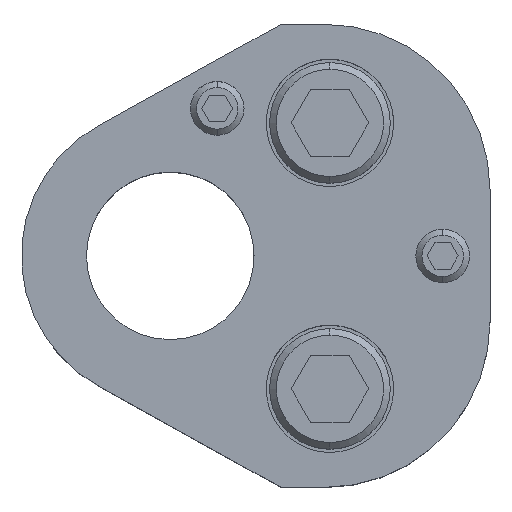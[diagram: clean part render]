
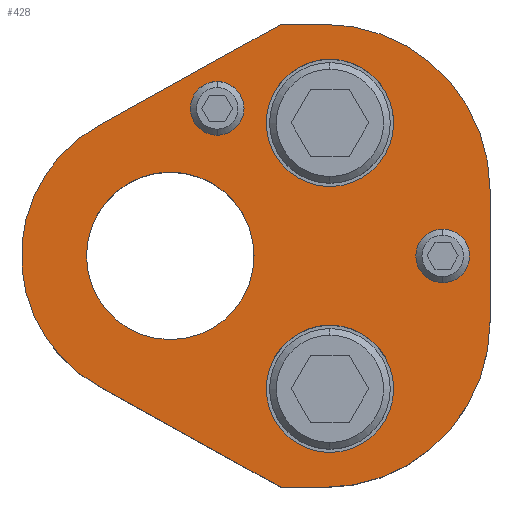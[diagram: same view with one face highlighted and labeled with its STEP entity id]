
A CAD part, top view. The second image highlights one B-rep face of the part: STEP entity #428.
In plain terms, the highlighted planar face has unit normal (0, 0, 1).
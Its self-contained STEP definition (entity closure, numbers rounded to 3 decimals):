
#198=FACE_BOUND('',#745,.T.);
#199=FACE_BOUND('',#746,.T.);
#200=FACE_BOUND('',#747,.T.);
#201=FACE_BOUND('',#748,.T.);
#202=FACE_BOUND('',#749,.T.);
#203=FACE_BOUND('',#750,.T.);
#276=CIRCLE('',#2330,24.7);
#278=CIRCLE('',#2334,24.7);
#281=CIRCLE('',#2340,22.2);
#282=CIRCLE('',#2342,4.);
#284=CIRCLE('',#2345,4.);
#286=CIRCLE('',#2348,4.);
#288=CIRCLE('',#2351,4.);
#298=CIRCLE('',#2366,9.5);
#299=CIRCLE('',#2367,9.5);
#300=CIRCLE('',#2368,9.5);
#301=CIRCLE('',#2369,9.5);
#302=CIRCLE('',#2370,12.5);
#303=CIRCLE('',#2371,12.5);
#428=ADVANCED_FACE('',(#198,#199,#200,#201,#202,#203),#522,.T.);
#522=PLANE('',#2372);
#745=EDGE_LOOP('',(#1129,#1130,#1131,#1132,#1133,#1134,#1135,#1136));
#746=EDGE_LOOP('',(#1137,#1138));
#747=EDGE_LOOP('',(#1139,#1140));
#748=EDGE_LOOP('',(#1141,#1142));
#749=EDGE_LOOP('',(#1143,#1144));
#750=EDGE_LOOP('',(#1145,#1146));
#1129=ORIENTED_EDGE('',*,*,#1724,.T.);
#1130=ORIENTED_EDGE('',*,*,#1728,.T.);
#1131=ORIENTED_EDGE('',*,*,#1731,.T.);
#1132=ORIENTED_EDGE('',*,*,#1734,.T.);
#1133=ORIENTED_EDGE('',*,*,#1737,.T.);
#1134=ORIENTED_EDGE('',*,*,#1740,.T.);
#1135=ORIENTED_EDGE('',*,*,#1743,.T.);
#1136=ORIENTED_EDGE('',*,*,#1746,.T.);
#1137=ORIENTED_EDGE('',*,*,#1771,.F.);
#1138=ORIENTED_EDGE('',*,*,#1772,.F.);
#1139=ORIENTED_EDGE('',*,*,#1773,.F.);
#1140=ORIENTED_EDGE('',*,*,#1774,.F.);
#1141=ORIENTED_EDGE('',*,*,#1757,.F.);
#1142=ORIENTED_EDGE('',*,*,#1753,.F.);
#1143=ORIENTED_EDGE('',*,*,#1751,.F.);
#1144=ORIENTED_EDGE('',*,*,#1747,.F.);
#1145=ORIENTED_EDGE('',*,*,#1775,.T.);
#1146=ORIENTED_EDGE('',*,*,#1776,.T.);
#1492=VERTEX_POINT('',#3476);
#1493=VERTEX_POINT('',#3478);
#1496=VERTEX_POINT('',#3485);
#1498=VERTEX_POINT('',#3491);
#1500=VERTEX_POINT('',#3497);
#1502=VERTEX_POINT('',#3503);
#1504=VERTEX_POINT('',#3509);
#1506=VERTEX_POINT('',#3515);
#1507=VERTEX_POINT('',#3523);
#1508=VERTEX_POINT('',#3524);
#1511=VERTEX_POINT('',#3535);
#1512=VERTEX_POINT('',#3536);
#1523=VERTEX_POINT('',#3571);
#1524=VERTEX_POINT('',#3572);
#1525=VERTEX_POINT('',#3575);
#1526=VERTEX_POINT('',#3576);
#1527=VERTEX_POINT('',#3579);
#1528=VERTEX_POINT('',#3580);
#1724=EDGE_CURVE('',#1493,#1492,#1968,.T.);
#1728=EDGE_CURVE('',#1492,#1496,#1972,.T.);
#1731=EDGE_CURVE('',#1496,#1498,#276,.T.);
#1734=EDGE_CURVE('',#1498,#1500,#1976,.T.);
#1737=EDGE_CURVE('',#1500,#1502,#278,.T.);
#1740=EDGE_CURVE('',#1502,#1504,#1980,.T.);
#1743=EDGE_CURVE('',#1504,#1506,#1983,.T.);
#1746=EDGE_CURVE('',#1506,#1493,#281,.T.);
#1747=EDGE_CURVE('',#1507,#1508,#282,.T.);
#1751=EDGE_CURVE('',#1508,#1507,#284,.T.);
#1753=EDGE_CURVE('',#1511,#1512,#286,.T.);
#1757=EDGE_CURVE('',#1512,#1511,#288,.T.);
#1771=EDGE_CURVE('',#1523,#1524,#298,.T.);
#1772=EDGE_CURVE('',#1524,#1523,#299,.T.);
#1773=EDGE_CURVE('',#1525,#1526,#300,.T.);
#1774=EDGE_CURVE('',#1526,#1525,#301,.T.);
#1775=EDGE_CURVE('',#1527,#1528,#302,.T.);
#1776=EDGE_CURVE('',#1528,#1527,#303,.T.);
#1968=LINE('',#3477,#2132);
#1972=LINE('',#3486,#2136);
#1976=LINE('',#3498,#2140);
#1980=LINE('',#3510,#2144);
#1983=LINE('',#3516,#2147);
#2132=VECTOR('',#2758,1.);
#2136=VECTOR('',#2764,1.);
#2140=VECTOR('',#2776,1.);
#2144=VECTOR('',#2788,1.);
#2147=VECTOR('',#2793,1.);
#2330=AXIS2_PLACEMENT_3D('',#3492,#2769,#2770);
#2334=AXIS2_PLACEMENT_3D('',#3504,#2781,#2782);
#2340=AXIS2_PLACEMENT_3D('',#3520,#2799,#2800);
#2342=AXIS2_PLACEMENT_3D('',#3522,#2803,#2804);
#2345=AXIS2_PLACEMENT_3D('',#3531,#2811,#2812);
#2348=AXIS2_PLACEMENT_3D('',#3534,#2817,#2818);
#2351=AXIS2_PLACEMENT_3D('',#3543,#2825,#2826);
#2366=AXIS2_PLACEMENT_3D('',#3570,#2859,#2860);
#2367=AXIS2_PLACEMENT_3D('',#3573,#2861,#2862);
#2368=AXIS2_PLACEMENT_3D('',#3574,#2863,#2864);
#2369=AXIS2_PLACEMENT_3D('',#3577,#2865,#2866);
#2370=AXIS2_PLACEMENT_3D('',#3578,#2867,#2868);
#2371=AXIS2_PLACEMENT_3D('',#3581,#2869,#2870);
#2372=AXIS2_PLACEMENT_3D('',#3582,#2871,#2872);
#2758=DIRECTION('',(0.875,-0.485,0.));
#2764=DIRECTION('',(1.,0.,0.));
#2769=DIRECTION('',(0.,0.,1.));
#2770=DIRECTION('',(-0.707,0.707,0.));
#2776=DIRECTION('',(0.,1.,0.));
#2781=DIRECTION('',(0.,0.,1.));
#2782=DIRECTION('',(-0.707,-0.707,0.));
#2788=DIRECTION('',(-1.,0.,0.));
#2793=DIRECTION('',(-0.875,-0.485,0.));
#2799=DIRECTION('',(0.,0.,1.));
#2800=DIRECTION('',(1.,0.,0.));
#2803=DIRECTION('',(0.,0.,1.));
#2804=DIRECTION('',(-1.,0.,0.));
#2811=DIRECTION('',(0.,0.,1.));
#2812=DIRECTION('',(1.,0.,0.));
#2817=DIRECTION('',(0.,0.,1.));
#2818=DIRECTION('',(-1.,0.,0.));
#2825=DIRECTION('',(0.,0.,1.));
#2826=DIRECTION('',(1.,0.,0.));
#2859=DIRECTION('',(0.,0.,1.));
#2860=DIRECTION('',(1.,0.,0.));
#2861=DIRECTION('',(0.,0.,1.));
#2862=DIRECTION('',(-1.,0.,0.));
#2863=DIRECTION('',(0.,0.,1.));
#2864=DIRECTION('',(1.,0.,0.));
#2865=DIRECTION('',(0.,0.,1.));
#2866=DIRECTION('',(-1.,0.,0.));
#2867=DIRECTION('',(0.,0.,-1.));
#2868=DIRECTION('',(-1.,0.,0.));
#2869=DIRECTION('',(0.,0.,-1.));
#2870=DIRECTION('',(1.,0.,0.));
#2871=DIRECTION('',(0.,0.,1.));
#2872=DIRECTION('',(-0.875,0.485,0.));
#3476=CARTESIAN_POINT('',(16.539,-34.55,25.));
#3477=CARTESIAN_POINT('',(16.539,-34.55,25.));
#3478=CARTESIAN_POINT('',(-10.763,-19.417,25.));
#3485=CARTESIAN_POINT('',(23.,-34.55,25.));
#3486=CARTESIAN_POINT('',(16.539,-34.55,25.));
#3491=CARTESIAN_POINT('',(47.7,-9.85,25.));
#3492=CARTESIAN_POINT('',(23.,-9.85,25.));
#3497=CARTESIAN_POINT('',(47.7,9.85,25.));
#3498=CARTESIAN_POINT('',(47.7,9.85,25.));
#3503=CARTESIAN_POINT('',(23.,34.55,25.));
#3504=CARTESIAN_POINT('',(23.,9.85,25.));
#3509=CARTESIAN_POINT('',(16.539,34.55,25.));
#3510=CARTESIAN_POINT('',(16.539,34.55,25.));
#3515=CARTESIAN_POINT('',(-10.763,19.417,25.));
#3516=CARTESIAN_POINT('',(16.539,34.55,25.));
#3520=CARTESIAN_POINT('',(0.,0.,25.));
#3522=CARTESIAN_POINT('',(7.,22.,25.));
#3523=CARTESIAN_POINT('',(7.,18.,25.));
#3524=CARTESIAN_POINT('',(7.,26.,25.));
#3531=CARTESIAN_POINT('',(7.,22.,25.));
#3534=CARTESIAN_POINT('',(40.64,0.,25.));
#3535=CARTESIAN_POINT('',(40.64,-4.,25.));
#3536=CARTESIAN_POINT('',(40.64,4.,25.));
#3543=CARTESIAN_POINT('',(40.64,0.,25.));
#3570=CARTESIAN_POINT('',(23.82,19.84,25.));
#3571=CARTESIAN_POINT('',(23.82,29.34,25.));
#3572=CARTESIAN_POINT('',(23.82,10.34,25.));
#3573=CARTESIAN_POINT('',(23.82,19.84,25.));
#3574=CARTESIAN_POINT('',(23.82,-19.84,25.));
#3575=CARTESIAN_POINT('',(23.82,-10.34,25.));
#3576=CARTESIAN_POINT('',(23.82,-29.34,25.));
#3577=CARTESIAN_POINT('',(23.82,-19.84,25.));
#3578=CARTESIAN_POINT('',(0.,0.,25.));
#3579=CARTESIAN_POINT('',(0.,12.5,25.));
#3580=CARTESIAN_POINT('',(0.,-12.5,25.));
#3581=CARTESIAN_POINT('',(0.,0.,25.));
#3582=CARTESIAN_POINT('',(-10.763,-19.417,25.));
